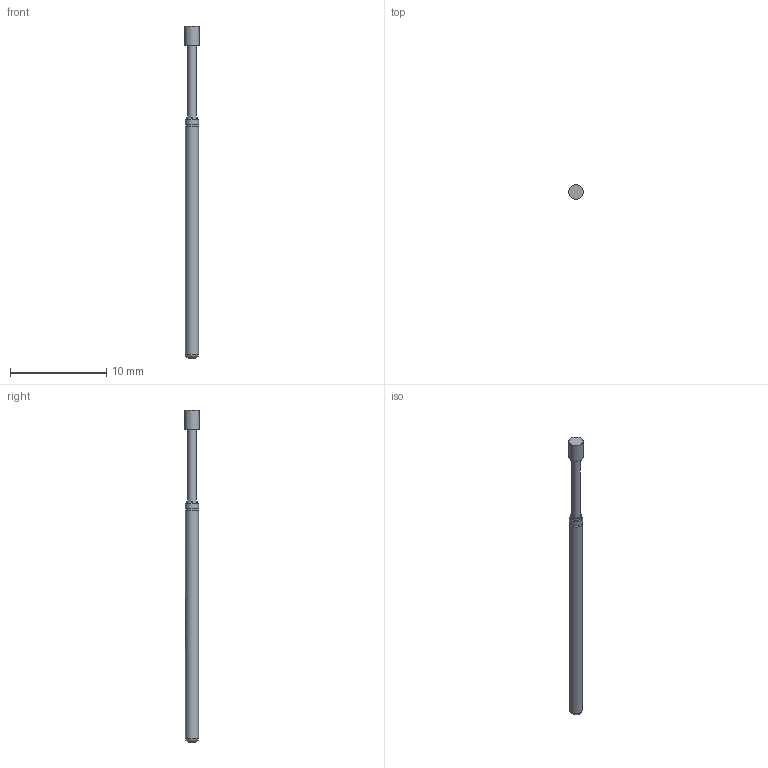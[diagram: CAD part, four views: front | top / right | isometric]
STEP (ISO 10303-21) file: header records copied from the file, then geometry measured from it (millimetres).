
FILE_DESCRIPTION(/* description */ (''),/* implementation_level */ '2;1');
FILE_NAME(/* name */ 'J100.stp',/* time_stamp */ '2024-06-28T15:21:02+08:00',/* author */ (''),/* organization */ (''),/* preprocessor_version */ 'ST-DEVELOPER v16.7',/* originating_system */ 'SIEMENS PLM Software NX 12.0',/* authorisation */ '');
FILE_SCHEMA (('AUTOMOTIVE_DESIGN { 1 0 10303 214 3 1 1 1 }'));
Length unit declared in the file: millimetre
Products named in the file (1): JY_P44DC2508s3iu
Bounding box: 1.5 x 1.5 x 34.44 mm (x, y, z)
Volume: 48.7 mm3; surface area: 161 mm2
Topology: 2 solids, 2 shells, 134 faces, 347 edges, 231 vertices
Faces by surface type: extrusion 77, plane 42, cylinder 11, cone 2, bspline 1, torus 1
Full cylindrical faces by diameter (mm): 0.9 x1, 1.06 x1, 1.16 x1, 1.36 x2, 1.5 x1
Entity records: 5322 total; most frequent: CARTESIAN_POINT 2372, ORIENTED_EDGE 668, DIRECTION 380, EDGE_CURVE 334, B_SPLINE_CURVE_WITH_KNOTS 261, VERTEX_POINT 228, VECTOR 190, EDGE_LOOP 157
